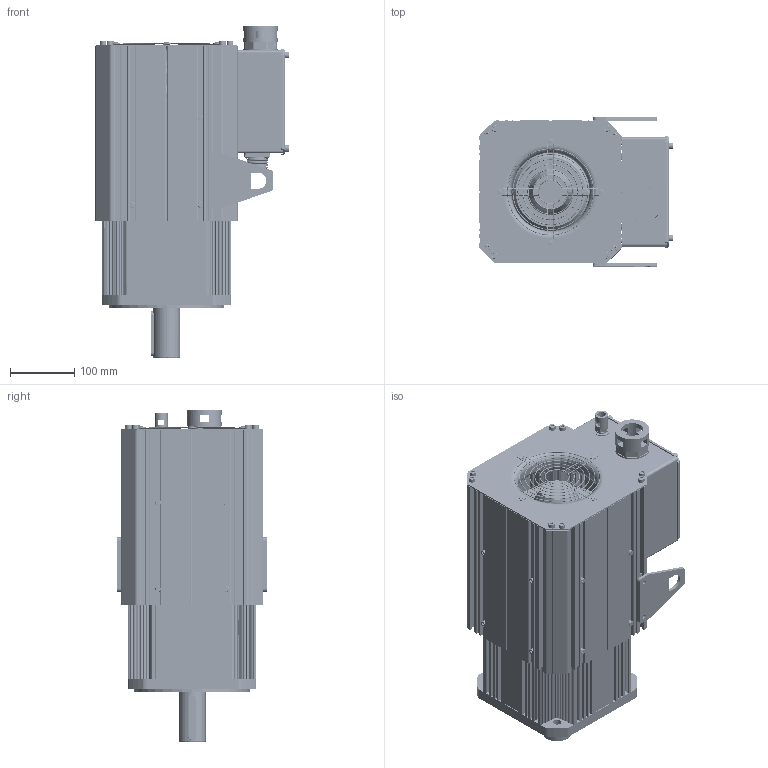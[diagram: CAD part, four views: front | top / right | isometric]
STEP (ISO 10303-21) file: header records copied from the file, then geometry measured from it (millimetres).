
FILE_DESCRIPTION((''),'2;1');
FILE_NAME('SV-MH20-011B-X-XA0-1000_ASM','2019-12-11T',('Administrator'),(''),'PRO/ENGINEER BY PARAMETRIC TECHNOLOGY CORPORATION, 2010280','PRO/ENGINEER BY PARAMETRIC TECHNOLOGY CORPORATION, 2010280','');
FILE_SCHEMA(('CONFIG_CONTROL_DESIGN'));
Products named in the file (63): QDG_10600-00001_1; ZZ_12400-02003_13KW_1; ZC_30400-00001_1; ZC_30400-01002_1; ZCZDQ_11200-00001_1; ZZZJ_80500-02003_13KW_ASM_2_ASM; O-RING_50000-01002_1; M6X35_1; ZCYG_10900-00001_1; JK_10200-45046_13KW_1; DZZJ_80200-02003_13KW_ASM_2_ASM; MANIFOLD_SOLID_BREP_53167; MANIFOLD_SOLID_BREP_62020; MANIFOLD_SOLID_BREP_70357; MANIFOLD_SOLID_BREP_78694; FDB_12900-61062_13KW_1_ASM; DEGDT_11500-02003_1; DE_11300-00001_1; O-RING_50000-02003_1; YXHQ_20300-00001_1; O-RING_50000-03004_1; JXHT_41000-09010_1; JXHG_41000-00001_1; JXHGDK_11600-04005_1; M6X10_1; XJD_50800-11012_1; AD13_1_1; AD42P5_3_1; MFD_YD28-15P_1; HKXZ_YD28-15P_40100-00001_1; PDLD_4X12_1; JXHZJ_81100-00002_ASM_1_ASM; M5X25_1; HDG_21200-00001_1; M8X30_1; HGB_21600-00001_1; M4X10_1; MANIFOLD_SOLID_BREP_152734; MANIFOLD_SOLID_BREP_153130; FJ_40000-03004_1_ASM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
Assembly tree (137 placements, depth 5):
  SV-MH20-011B-X-XA0-1000_ASM
    K072F18C18P_ASM_2_ASM
      QDG_10600-00001_1
      ZZZJ_80500-02003_13KW_ASM_2_ASM
        ZZ_12400-02003_13KW_1
        ZC_30400-00001_1
        ZC_30400-01002_1
        ZCZDQ_11200-00001_1
      O-RING_50000-01002_1
      M6X35_1  x4
      ZCYG_10900-00001_1
      DZZJ_80200-02003_13KW_ASM_2_ASM
        JK_10200-45046_13KW_1
      FDB_12900-61062_13KW_1_ASM
        MANIFOLD_SOLID_BREP_53167
        MANIFOLD_SOLID_BREP_62020
        MANIFOLD_SOLID_BREP_70357
        MANIFOLD_SOLID_BREP_78694
      DEGDT_11500-02003_1  x2
      DE_11300-00001_1  x2
      O-RING_50000-02003_1
      YXHQ_20300-00001_1
      O-RING_50000-03004_1
      JXHZJ_81100-00002_ASM_1_ASM
        JXHT_41000-09010_1
        JXHG_41000-00001_1
        JXHGDK_11600-04005_1  x4
        M6X10_1  x8
        XJD_50800-11012_1
        AD13_1_1
        AD42P5_3_1
        MFD_YD28-15P_1
        HKXZ_YD28-15P_40100-00001_1
        PDLD_4X12_1  x4
      M5X25_1  x16
      HDG_21200-00001_1
      M8X30_1  x16
      HGB_21600-00001_1
      M4X10_1  x10
      FJ_40000-03004_1_ASM
        MANIFOLD_SOLID_BREP_152734
        MANIFOLD_SOLID_BREP_153130
      M4X12_1  x4
      FJFHBZZ_ASM_1_ASM
        FJFHB_11100-02003_1
        FHW_30500-00001_1_ASM
          MANIFOLD_SOLID_BREP_155458
          MANIFOLD_SOLID_BREP_155564
          MANIFOLD_SOLID_BREP_155670
          MANIFOLD_SOLID_BREP_155960
          MANIFOLD_SOLID_BREP_156250
          MANIFOLD_SOLID_BREP_156540
          MANIFOLD_SOLID_BREP_156830
          MANIFOLD_SOLID_BREP_156936
          MANIFOLD_SOLID_BREP_157042
          MANIFOLD_SOLID_BREP_157148
          MANIFOLD_SOLID_BREP_157254
        PDQ_4_1  x4
        MD_4_1  x4
      M6X10_1  x8
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Bounding box: 300.6 x 231.5 x 515.8 mm (x, y, z)
Volume: 6659588.6 mm3; surface area: 2437439.2 mm2
Topology: 129 solids, 129 shells, 6056 faces, 17709 edges, 12108 vertices
Faces by surface type: plane 2944, cylinder 2351, cone 372, torus 287, bspline 84, sphere 18
Entity records: 175915 total; most frequent: CARTESIAN_POINT 41676, ORIENTED_EDGE 28534, DIRECTION 28477, EDGE_CURVE 14267, AXIS2_PLACEMENT_3D 10414, VERTEX_POINT 9857, VECTOR 7649, LINE 7649
